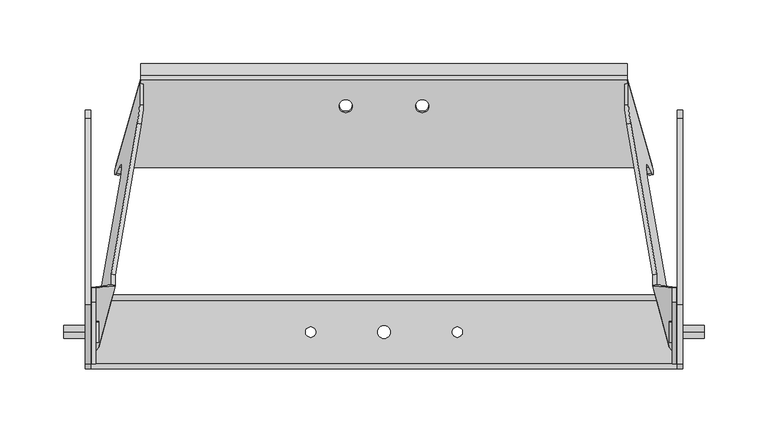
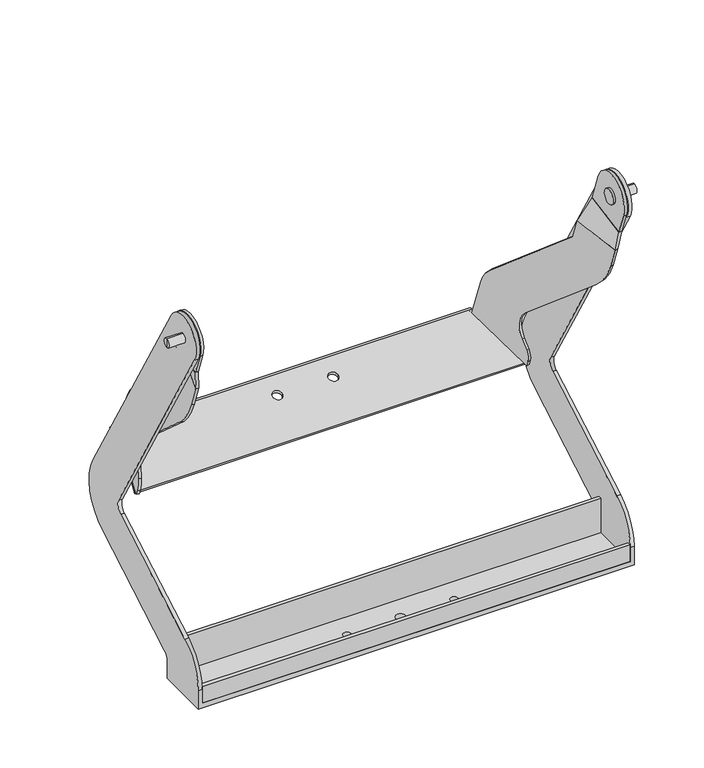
"""IFC4 building model written with IfcOpenShell, lengths in millimetres: proxy geometry, d&b M-Series M6 Flying Bracket : M6 Flying Bracket."""

from ifc_helpers import new_model, si_unit, point, frame, frame_2d, origin, place, context, project, spatial, polyline, circle_curve, trimmed, segment, composite_curve, outline, extrude, source, transform, mapped, element, save
from ifc_brep_helpers import plane_surface, cylinder_surface, revolved_surface, spline_surface, advanced_brep


def communication_devices_d38580d4(model_context):
    return source(origin(), model_context, "Body", "SolidModel", [
        advanced_brep(
        [(-226.0004126, 35.0686769, 346.7402111), (-228.9943528, 35.0445142, 346.8727202), (-228.9935695, -14.8498098, 337.7745767), (-225.9996292, -14.8256471, 337.6420676), (-210.7972831, 36.2897159, 324.8814154), (-223.7382354, -12.1093216, 316.6477691), (-226.6360129, -11.3796906, 316.9133331), (-213.6950606, 37.019347, 325.1469794)],
        [
            (0, 1),
            (1, 2),
            (2, 3),
            (3, 0),
            (4, 5),
            (5, 6),
            (6, 7),
            (7, 4),
            (7, 1),
            (0, 4),
            (5, 3),
            (2, 6),
        ],
        [
            plane_surface(frame((-227.496991, 10.1094335, 342.2573939), z_axis=(0.0449434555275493, -0.17920826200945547, 0.9827840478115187), x_axis=(1.5446243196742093e-05, -0.9837779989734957, -0.1793902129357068))),
            plane_surface(frame((-218.716648, 12.4550127, 320.8973743), z_axis=(-0.0449434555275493, 0.17920826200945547, -0.9827840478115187), x_axis=(1.5446243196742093e-05, -0.9837779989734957, -0.1793902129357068))),
            spline_surface(1, 1, [[(-210.7972831, 36.2897159, 324.8814154), (-226.0004126, 35.0686769, 346.7402111)], [(-213.6950606, 37.019347, 325.1469794), (-228.9943528, 35.0445142, 346.8727202)]], [2, 2], [2, 2], [0.0, 1.0], [0.0, 1.0]),
            spline_surface(1, 1, [[(-226.6360129, -11.3796906, 316.9133331), (-228.9935695, -14.8498098, 337.7745767)], [(-223.7382354, -12.1093216, 316.6477691), (-225.9996292, -14.8256471, 337.6420676)]], [2, 2], [2, 2], [0.0, 1.0], [0.0, 1.0]),
            spline_surface(1, 1, [[(-223.7382354, -12.1093216, 316.6477691), (-225.9996292, -14.8256471, 337.6420676)], [(-210.7972831, 36.2897159, 324.8814154), (-226.0004126, 35.0686769, 346.7402111)]], [2, 2], [2, 2], [0.0, 1.0], [0.0, 1.0]),
            spline_surface(1, 1, [[(-213.6950606, 37.019347, 325.1469794), (-228.9943528, 35.0445142, 346.8727202)], [(-226.6360129, -11.3796906, 316.9133331), (-228.9935695, -14.8498098, 337.7745767)]], [2, 2], [2, 2], [0.0, 1.0], [0.0, 1.0]),
        ],
        [
            (0, [[1, 2, 3, 4]]),
            (1, [[5, 6, 7, 8]]),
            (2, [[-8, 9, -1, 10]]),
            (3, [[-6, 11, -3, 12]]),
            (4, [[-5, -10, -4, -11]]),
            (5, [[-7, -12, -2, -9]]),
        ],
    ),
        advanced_brep(
        [(226.0004126, 35.0686769, 346.7402111), (225.9996292, -14.8256471, 337.6420676), (228.9935695, -14.8498098, 337.7745767), (228.9943528, 35.0445142, 346.8727202), (210.7972831, 36.2897159, 324.8814154), (213.6950606, 37.019347, 325.1469794), (226.6360129, -11.3796906, 316.9133331), (223.7382354, -12.1093216, 316.6477691)],
        [
            (0, 1),
            (1, 2),
            (2, 3),
            (3, 0),
            (4, 5),
            (5, 6),
            (6, 7),
            (7, 4),
            (4, 0),
            (3, 5),
            (6, 2),
            (1, 7),
        ],
        [
            plane_surface(frame((227.496991, 10.1094335, 342.2573939), z_axis=(-0.04494345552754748, -0.17920826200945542, 0.9827840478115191), x_axis=(-0.9989895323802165, 0.008062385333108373, -0.0442143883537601))),
            plane_surface(frame((218.716648, 12.4550127, 320.8973743), z_axis=(0.04494345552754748, 0.17920826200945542, -0.9827840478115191), x_axis=(-0.9989895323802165, 0.008062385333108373, -0.0442143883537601))),
            spline_surface(1, 1, [[(213.6950606, 37.019347, 325.1469794), (228.9943528, 35.0445142, 346.8727202)], [(210.7972831, 36.2897159, 324.8814154), (226.0004126, 35.0686769, 346.7402111)]], [2, 2], [2, 2], [0.0, 1.0], [0.0, 1.0]),
            spline_surface(1, 1, [[(223.7382354, -12.1093216, 316.6477691), (225.9996292, -14.8256471, 337.6420676)], [(226.6360129, -11.3796906, 316.9133331), (228.9935695, -14.8498098, 337.7745767)]], [2, 2], [2, 2], [0.0, 1.0], [0.0, 1.0]),
            spline_surface(1, 1, [[(210.7972831, 36.2897159, 324.8814154), (226.0004126, 35.0686769, 346.7402111)], [(223.7382354, -12.1093216, 316.6477691), (225.9996292, -14.8256471, 337.6420676)]], [2, 2], [2, 2], [0.0, 1.0], [0.0, 1.0]),
            spline_surface(1, 1, [[(226.6360129, -11.3796906, 316.9133331), (228.9935695, -14.8498098, 337.7745767)], [(213.6950606, 37.019347, 325.1469794), (228.9943528, 35.0445142, 346.8727202)]], [2, 2], [2, 2], [0.0, 1.0], [0.0, 1.0]),
        ],
        [
            (0, [[1, 2, 3, 4]]),
            (1, [[5, 6, 7, 8]]),
            (2, [[-5, 9, -4, 10]]),
            (3, [[-7, 11, -2, 12]]),
            (4, [[-8, -12, -1, -9]]),
            (5, [[-6, -10, -3, -11]]),
        ],
    ),
        extrude(outline(composite_curve([segment(polyline([(104.5689879, 0.0), (180.197191, -1e-07), (180.1971911, -6.0833657)]), True, "CONTINUOUS"), segment(trimmed(circle_curve(frame_2d((162.814116, -6.0833657)), 17.383075), [point((180.1971911, -6.0833657))], [point((175.3152275, -18.1620042))], False, "CARTESIAN"), True, "CONTINUOUS"), segment(polyline([(175.3152275, -18.1620042), (167.0292159, -26.7378346)]), True, "CONTINUOUS"), segment(trimmed(circle_curve(frame_2d((188.6038419, -47.58335)), 30.0), [point((167.0292159, -26.7378346))], [point((162.6230798, -62.5833499))], True, "CARTESIAN"), True, "CONTINUOUS"), segment(polyline([(162.6230798, -62.5833499), (229.5617624, -178.5245492)]), True, "CONTINUOUS"), segment(trimmed(circle_curve(frame_2d((160.2797301, -218.5245492)), 80.0), [point((229.5617624, -178.5245492))], [point((240.2797301, -218.5245492))], False, "CARTESIAN"), True, "CONTINUOUS"), segment(polyline([(240.2797301, -218.5245492), (240.2797301, -244.0319149), (190.2797302, -235.2155658), (190.2797301, -210.4860734), (111.2677177, -73.6332534)]), True, "CONTINUOUS"), segment(trimmed(circle_curve(frame_2d((154.5689878, -48.6332534)), 50.0), [point((111.2677177, -73.6332534))], [point((104.5689879, -48.6332534))], False, "CARTESIAN"), True, "CONTINUOUS"), segment(polyline([(104.5689879, -48.6332534), (104.5689879, 0.0)]), True, "CONTINUOUS")], self_intersect=False)), frame((161.5492651, 289.4500216, 166.7130543), z_axis=(0.9659258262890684, 0.2432103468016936, 0.08852132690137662), x_axis=(0.2588190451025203, -0.9076733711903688, -0.3303660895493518)), (0.0, 0.0, 1.0), 3.0),
        extrude(outline(composite_curve([segment(trimmed(circle_curve(frame_2d((0.0, -8.2)), 8.2), [point((0.0, -16.4))], [point((0.0, 0.0))], False, "CARTESIAN"), True, "CONTINUOUS"), segment(trimmed(circle_curve(frame_2d((0.0, -8.2)), 8.2), [point((0.0, 0.0))], [point((0.0, -16.4))], False, "CARTESIAN"), True, "CONTINUOUS")], self_intersect=False)), frame((223.7074562, -7.7068157, 367.1980095), z_axis=(0.9999999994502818, -1.5277969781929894e-05, 2.942821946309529e-05), x_axis=(-3.287885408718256e-05, -0.34202014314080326, 0.9396926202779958)), (0.0, 0.0, 1.0), 2.2918383),
        extrude(outline(composite_curve([segment(trimmed(circle_curve(frame_2d((0.0085442, 369.976526)), 25.0), [point((-23.4837713, 361.4260224))], [point((23.5008597, 378.5270296))], False, "CARTESIAN"), True, "CONTINUOUS"), segment(polyline([(23.5008597, 378.5270296), (35.0670317, 346.7492332), (-14.8241685, 337.6339593), (-23.4837713, 361.4260224)]), True, "CONTINUOUS")], self_intersect=False)), frame((226.0, 0.0, 0.0), z_axis=(1.0, 0.0, 0.0), x_axis=(0.0, 1.0, 0.0)), (0.0, 0.0, 1.0), 3.0),
        extrude(outline(composite_curve([segment(polyline([(-48.6332534, 0.0), (0.0, 0.0)]), True, "CONTINUOUS"), segment(trimmed(circle_curve(frame_2d((1e-07, -49.9999999)), 50.0), [point((0.0, 0.0))], [point((25.0, -6.6987298))], False, "CARTESIAN"), True, "CONTINUOUS"), segment(polyline([(25.0, -6.6987298), (161.85282, -85.7107422), (186.5823124, -85.7107423), (195.3986615, -135.7107422), (169.8912958, -135.7107422)]), True, "CONTINUOUS"), segment(trimmed(circle_curve(frame_2d((169.8912958, -55.7107422)), 80.0), [point((169.8912958, -135.7107422))], [point((129.8912958, -124.9927745))], False, "CARTESIAN"), True, "CONTINUOUS"), segment(polyline([(129.8912958, -124.9927745), (13.9500965, -58.0540919)]), True, "CONTINUOUS"), segment(trimmed(circle_curve(frame_2d((-1.0499034, -84.034854)), 30.0), [point((13.9500965, -58.0540919))], [point((-21.8954188, -62.460228))], True, "CARTESIAN"), True, "CONTINUOUS"), segment(polyline([(-21.8954188, -62.460228), (-30.4712491, -70.7462396)]), True, "CONTINUOUS"), segment(trimmed(circle_curve(frame_2d((-42.5498877, -58.2451281)), 17.383075), [point((-30.4712491, -70.7462396))], [point((-42.5498877, -75.6282031))], False, "CARTESIAN"), True, "CONTINUOUS"), segment(polyline([(-42.5498877, -75.6282031), (-48.6332533, -75.6282031), (-48.6332534, 0.0)]), True, "CONTINUOUS")], self_intersect=False)), frame((-188.6137106, 177.9019835, 177.867316), z_axis=(-0.9659258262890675, 0.2432103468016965, 0.08852132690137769), x_axis=(0.0, -0.3420201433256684, 0.9396926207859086)), (0.0, 0.0, 1.0), 3.0),
        extrude(outline(composite_curve([segment(trimmed(circle_curve(frame_2d((0.0, -8.2)), 8.2), [point((0.0, -16.4))], [point((0.0, 0.0))], False, "CARTESIAN"), True, "CONTINUOUS"), segment(trimmed(circle_curve(frame_2d((0.0, -8.2)), 8.2), [point((0.0, 0.0))], [point((0.0, -16.4))], False, "CARTESIAN"), True, "CONTINUOUS")], self_intersect=False)), frame((-223.724223, -7.7068246, 367.1980068), z_axis=(-0.9999999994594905, -1.1245230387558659e-05, 3.0896016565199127e-05), x_axis=(-3.287885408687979e-05, 0.3420201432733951, -0.9396926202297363)), (0.0, 0.0, 1.0), 2.2727968),
        extrude(outline(composite_curve([segment(trimmed(circle_curve(frame_2d((0.0085442, 369.976526)), 25.0), [point((-23.4837713, 361.4260224))], [point((23.5008597, 378.5270296))], False, "CARTESIAN"), True, "CONTINUOUS"), segment(polyline([(23.5008597, 378.5270296), (35.0670317, 346.7492332), (-14.8241685, 337.6339593), (-23.4837713, 361.4260224)]), True, "CONTINUOUS")], self_intersect=False)), frame((-229.0, 0.0, 0.0), z_axis=(1.0, 0.0, 0.0), x_axis=(0.0, 1.0, 0.0)), (0.0, 0.0, 1.0), 3.0),
        advanced_brep(
        [(190.7794274, 198.8585502, 130.547922), (210.3312721, 130.29061, 105.5912327), (-210.3312721, 130.29061, 105.5912327), (-190.7794274, 198.8585502, 130.547922), (-24.75, 178.1932418, 123.0263648), (-35.25, 178.1932418, 123.0263648), (24.75, 178.1932418, 123.0263648), (35.25, 178.1932418, 123.0263648), (-190.7794274, 197.8324898, 133.3669998), (-210.3312721, 129.2645496, 108.4103106), (210.3312721, 129.2645496, 108.4103106), (190.7794274, 197.8324898, 133.3669998), (-35.25, 177.1671814, 125.8454427), (-24.75, 177.1671814, 125.8454427), (35.25, 177.1671814, 125.8454427), (24.75, 177.1671814, 125.8454427), (190.7794274, 208.5936276, 123.0319258), (190.7794274, 210.5219904, 125.3300591), (190.7794274, 201.7717208, 132.6724071), (190.7794274, 199.843358, 130.3742738), (-190.7794274, 208.5936276, 123.0319258), (-190.7794274, 199.843358, 130.3742738), (-190.7794274, 201.7717208, 132.6724071), (-190.7794274, 210.5219904, 125.3300591)],
        [
            (0, 1),
            (1, 2),
            (2, 3),
            (3, 0),
            (4, 5, circle_curve(frame((-30.0, 178.1932418, 123.0263648), z_axis=(0.0, -0.34202014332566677, 0.9396926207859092), x_axis=(1.0, 0.0, 0.0)), 5.25)),
            (5, 4, circle_curve(frame((-30.0, 178.1932418, 123.0263648), z_axis=(0.0, -0.34202014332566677, 0.9396926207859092), x_axis=(1.0, 0.0, 0.0)), 5.25)),
            (6, 7, circle_curve(frame((30.0, 178.1932418, 123.0263648), z_axis=(0.0, -0.34202014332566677, 0.9396926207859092), x_axis=(-1.0, 0.0, 0.0)), 5.25)),
            (7, 6, circle_curve(frame((30.0, 178.1932418, 123.0263648), z_axis=(0.0, -0.34202014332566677, 0.9396926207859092), x_axis=(-1.0, 0.0, 0.0)), 5.25)),
            (8, 9),
            (9, 10),
            (10, 11),
            (11, 8),
            (12, 13, circle_curve(frame((-30.0, 177.1671814, 125.8454427), z_axis=(0.0, 0.34202014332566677, -0.9396926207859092), x_axis=(1.0, 0.0, 0.0)), 5.25)),
            (13, 12, circle_curve(frame((-30.0, 177.1671814, 125.8454427), z_axis=(0.0, 0.34202014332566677, -0.9396926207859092), x_axis=(1.0, 0.0, 0.0)), 5.25)),
            (14, 15, circle_curve(frame((30.0, 177.1671814, 125.8454427), z_axis=(0.0, 0.34202014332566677, -0.9396926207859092), x_axis=(-1.0, 0.0, 0.0)), 5.25)),
            (15, 14, circle_curve(frame((30.0, 177.1671814, 125.8454427), z_axis=(0.0, 0.34202014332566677, -0.9396926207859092), x_axis=(-1.0, 0.0, 0.0)), 5.25)),
            (1, 10),
            (9, 2),
            (16, 17),
            (17, 18),
            (18, 11, circle_curve(frame((190.7794274, 199.2005702, 129.6082292), z_axis=(1.0, 0.0, 0.0), x_axis=(0.0, -0.9396926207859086, -0.3420201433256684)), 4.0000002)),
            (11, 0),
            (0, 19, circle_curve(frame((190.7794274, 199.2005702, 129.6082292), z_axis=(-1.0, 0.0, 0.0), x_axis=(0.0, -0.9396926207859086, -0.3420201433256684)), 1.0000002)),
            (19, 16),
            (20, 21),
            (21, 3, circle_curve(frame((-190.7794274, 199.2005702, 129.6082292), z_axis=(1.0, 0.0, 0.0), x_axis=(0.0, -0.9396926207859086, -0.3420201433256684)), 1.0000002)),
            (3, 8),
            (8, 22, circle_curve(frame((-190.7794274, 199.2005702, 129.6082292), z_axis=(-1.0, 0.0, 0.0), x_axis=(0.0, -0.9396926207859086, -0.3420201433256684)), 4.0000002)),
            (22, 23),
            (23, 20),
            (16, 20),
            (23, 17),
            (22, 18),
            (21, 19),
            (12, 5),
            (4, 13),
            (14, 7),
            (6, 15),
        ],
        [
            plane_surface(frame((115.0144144, 198.8585502, 130.547922), z_axis=(0.0, 0.34202014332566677, -0.9396926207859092), x_axis=(1.0, 0.0, 0.0))),
            plane_surface(frame((115.0144144, 197.8324898, 133.3669998), z_axis=(0.0, -0.34202014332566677, 0.9396926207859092), x_axis=(-1.0, 0.0, 0.0))),
            plane_surface(frame((210.3312721, 130.29061, 105.5912327), z_axis=(0.0, -0.9396926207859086, -0.3420201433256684), x_axis=(0.0, -0.3420201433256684, 0.9396926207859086))),
            plane_surface(frame((190.7794274, 210.5219904, 125.3300591), z_axis=(1.0000000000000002, 0.0, 0.0), x_axis=(0.0, 0.6427876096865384, 0.766044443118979))),
            plane_surface(frame((-190.7794274, 210.5219904, 125.3300591), z_axis=(-1.0000000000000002, 0.0, 0.0), x_axis=(0.0, -0.6427876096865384, -0.766044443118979))),
            plane_surface(frame((190.7794274, 208.5936276, 123.0319258), z_axis=(0.0, 0.766044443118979, -0.6427876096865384), x_axis=(-1.0, 0.0, 0.0))),
            plane_surface(frame((190.7794274, 210.5219904, 125.3300591), z_axis=(0.0, 0.6427876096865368, 0.7660444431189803), x_axis=(-1.0, 0.0, 0.0))),
            cylinder_surface(frame((-190.7794274, 199.2005702, 129.6082292), z_axis=(1.0, 0.0, 0.0), x_axis=(0.0, -0.9396926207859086, -0.3420201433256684)), 4.0000002),
            revolved_surface(polyline([(-190.7794274, 198.26087739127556, 129.2662089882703), (190.7794274, 198.26087739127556, 129.2662089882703)]), (-190.7794274, 199.2005702, 129.6082292), (-1.0, 0.0, 0.0)),
            plane_surface(frame((190.7794274, 199.843358, 130.3742738), z_axis=(0.0, -0.6427876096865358, -0.766044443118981), x_axis=(-1.0, 0.0, 0.0))),
            plane_surface(frame((190.7794274, 198.8585502, 130.547922), z_axis=(0.9659258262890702, 0.24321034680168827, 0.08852132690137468), x_axis=(0.0, -0.3420201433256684, 0.9396926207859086))),
            plane_surface(frame((-210.3312721, 130.29061, 105.5912327), z_axis=(-0.9659258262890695, 0.24321034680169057, 0.08852132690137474), x_axis=(0.0, -0.3420201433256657, 0.9396926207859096))),
            revolved_surface(polyline([(-24.75, 178.19324183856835, 123.02636481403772), (-24.75, 177.1671814, 125.8454427)]), (-30.0, 177.1671814, 125.8454427), (0.0, 0.34202014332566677, -0.9396926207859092)),
            revolved_surface(polyline([(24.75, 178.19324183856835, 123.02636481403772), (24.75, 177.1671814, 125.8454427)]), (30.0, 177.1671814, 125.8454427), (0.0, 0.34202014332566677, -0.9396926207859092)),
        ],
        [
            (0, [[1, 2, 3, 4], [5, 6], [7, 8]]),
            (1, [[9, 10, 11, 12], [13, 14], [15, 16]]),
            (2, [[-2, 17, -10, 18]]),
            (3, [[19, 20, 21, 22, 23, 24]]),
            (4, [[25, 26, 27, 28, 29, 30]]),
            (5, [[-19, 31, -30, 32]]),
            (6, [[-20, -32, -29, 33]]),
            (7, [[-21, -33, -28, -12]]),
            (8, [[-23, -4, -26, 34]]),
            (9, [[-24, -34, -25, -31]]),
            (10, [[-1, -22, -11, -17]]),
            (11, [[-3, -18, -9, -27]]),
            (12, [[35, -5, 36, -13]]),
            (12, [[-35, -14, -36, -6]]),
            (13, [[37, -7, 38, -15]]),
            (13, [[-37, -16, -38, -8]]),
        ],
    ),
        advanced_brep(
        [(-233.9958719, 0.0, 375.000001), (-233.9958719, 0.0, 365.000001), (-251.0, 0.0, 365.000001), (-251.0, 0.0, 375.000001), (-233.9958719, 0.0, 370.000001), (-251.0, 0.0, 370.000001)],
        [
            (0, 1, circle_curve(frame((-233.9958719, 0.0, 370.000001), z_axis=(-1.0, 0.0, 0.0), x_axis=(0.0, 0.0, -1.0)), 5.0)),
            (1, 2),
            (2, 3, circle_curve(frame((-251.0, 0.0, 370.000001), z_axis=(1.0, 0.0, 0.0), x_axis=(0.0, 0.0, -1.0)), 5.0)),
            (3, 0),
            (1, 0, circle_curve(frame((-233.9958719, 0.0, 370.000001), z_axis=(-1.0, 0.0, 0.0), x_axis=(0.0, 0.0, -1.0)), 5.0)),
            (3, 2, circle_curve(frame((-251.0, 0.0, 370.000001), z_axis=(1.0, 0.0, 0.0), x_axis=(0.0, 0.0, -1.0)), 5.0)),
            (4, 1),
            (0, 4),
            (2, 5),
            (5, 3),
        ],
        [
            cylinder_surface(frame((-294.5, 0.0, 370.000001), z_axis=(1.0, 0.0, 0.0), x_axis=(0.0, 0.0, -1.0)), 5.0),
            plane_surface(frame((-233.9958719, 0.0, 370.000001), z_axis=(1.0, 0.0, 0.0), x_axis=(0.0, 0.0, -1.0))),
            plane_surface(frame((-251.0, 0.0, 370.000001), z_axis=(-1.0, 0.0, 0.0), x_axis=(0.0, 0.0, -1.0))),
        ],
        [
            (0, [[1, 2, 3, 4]]),
            (0, [[5, -4, 6, -2]]),
            (1, [[7, -1, 8]]),
            (1, [[-8, -5, -7]]),
            (2, [[-3, 9, 10]]),
            (2, [[-6, -10, -9]]),
        ],
    ),
        advanced_brep(
        [(251.0, 0.0, 370.000001), (251.0, 0.0, 365.000001), (251.0, 0.0, 375.000001), (233.9958719, 0.0, 375.000001), (233.9958719, 0.0, 365.000001), (233.9958719, 0.0, 370.000001)],
        [
            (0, 1),
            (1, 2, circle_curve(frame((251.0, 0.0, 370.000001), z_axis=(1.0, 0.0, 0.0), x_axis=(0.0, 0.0, -1.0)), 5.0)),
            (2, 0),
            (2, 1, circle_curve(frame((251.0, 0.0, 370.000001), z_axis=(1.0, 0.0, 0.0), x_axis=(0.0, 0.0, -1.0)), 5.0)),
            (3, 4, circle_curve(frame((233.9958719, 0.0, 370.000001), z_axis=(-1.0, 0.0, 0.0), x_axis=(0.0, 0.0, -1.0)), 5.0)),
            (4, 5),
            (5, 3),
            (4, 3, circle_curve(frame((233.9958719, 0.0, 370.000001), z_axis=(-1.0, 0.0, 0.0), x_axis=(0.0, 0.0, -1.0)), 5.0)),
            (1, 4),
            (3, 2),
        ],
        [
            plane_surface(frame((251.0, 0.0, 370.000001), z_axis=(1.0, 0.0, 0.0), x_axis=(0.0, 0.0, -1.0))),
            plane_surface(frame((233.9958719, 0.0, 370.000001), z_axis=(-1.0, 0.0, 0.0), x_axis=(0.0, 0.0, -1.0))),
            cylinder_surface(frame((-294.5, 0.0, 370.000001), z_axis=(1.0, 0.0, 0.0), x_axis=(0.0, 0.0, -1.0)), 5.0),
        ],
        [
            (0, [[1, 2, 3]]),
            (0, [[-3, 4, -1]]),
            (1, [[5, 6, 7]]),
            (1, [[8, -7, -6]]),
            (2, [[-2, 9, -5, 10]]),
            (2, [[-4, -10, -8, -9]]),
        ],
    ),
        advanced_brep(
        [(229.9958719, 21.4506615, 382.3842229), (229.9958719, 167.5626118, 129.3107825), (229.9958719, 149.2613376, 61.009524), (229.9958719, 33.9999999, -5.5366417), (229.9958719, 29.0, -14.1968957), (229.9958719, 29.0, -29.0421952), (229.9958719, -29.0, -29.0421952), (229.9958719, -29.0, -13.0421952), (229.9958719, -3.9999979, 30.2590762), (229.9958719, 115.5929978, 99.3061168), (229.9958719, 119.2534479, 112.9660543), (229.9958719, -21.8498518, 357.3857721), (233.9958719, 21.4506615, 382.3842229), (233.9958719, 167.5626118, 129.3107825), (233.9958719, 149.2613376, 61.009524), (233.9958719, 115.5929978, 99.3061168), (233.9958719, 119.2534479, 112.9660543), (233.9958719, -21.8498518, 357.3857721), (233.9958719, 33.9999999, -5.5366417), (233.9958719, 29.0, -14.1968957), (233.9958719, -29.0, -13.0421952), (233.9958719, -3.9999979, 30.2590762), (-229.9958719, 21.4504736, 382.3844377), (-229.9958719, -21.8497087, 357.3862095), (-229.9958719, 119.2534368, 112.9660278), (-229.9958719, 115.5929847, 99.3061169), (-229.9958719, -4.0, 30.259075), (-229.9958719, -29.0, -13.0421952), (-229.9958719, -29.0, -29.0421952), (-229.9958719, 29.0, -29.0421952), (-229.9958719, 29.0, -14.1968957), (-229.9958719, 34.0, -5.5366417), (-229.9958719, 149.2613397, 61.0095238), (-229.9958719, 167.5626099, 129.310794), (-233.9958719, 21.4504736, 382.3844377), (-233.9958719, 167.5626099, 129.310794), (-233.9958719, 149.2613397, 61.0095238), (-233.9958719, 34.0, -5.5366417), (-233.9958719, 29.0, -14.1968957), (-233.9958719, 29.0, -34.0421952), (-233.9958719, -29.0, -34.0421952), (-233.9958719, -29.0, -13.0421952), (-233.9958719, -4.0, 30.259075), (-233.9958719, 115.5929847, 99.3061169), (-233.9958719, 119.2534368, 112.9660278), (-233.9958719, -21.8497087, 357.3862095), (233.9958719, -29.0, -34.0421952), (233.9958719, 29.0, -34.0421952), (-61.5277425, 0.0, -29.0421952), (-53.4722575, 0.0, -29.0421952), (-5.0, 0.0, -29.0421952), (5.0, 0.0, -29.0421952), (53.5, 0.0, -29.0421952), (61.5, 0.0, -29.0421952), (-61.5277425, 0.0, -34.0421952), (-53.4722575, 0.0, -34.0421952), (-5.0, 0.0, -34.0421952), (5.0, 0.0, -34.0421952), (53.5, 0.0, -34.0421952), (61.5, 0.0, -34.0421952)],
        [
            (0, 1),
            (1, 2, circle_curve(frame((229.9958719, 124.2613382, 104.3107923), z_axis=(-1.0, 0.0, 0.0), x_axis=(0.0, 1.0, 0.0)), 49.999998)),
            (2, 3),
            (3, 4, circle_curve(frame((229.9958719, 39.0, -14.1968957), z_axis=(1.0, 0.0, 0.0), x_axis=(0.0, 1.0, 0.0)), 10.0)),
            (4, 5),
            (5, 6),
            (6, 7),
            (7, 8, circle_curve(frame((229.9958719, 21.0, -13.0421952), z_axis=(-1.0, 0.0, 0.0), x_axis=(0.0, 1.0, 0.0)), 50.0)),
            (8, 9),
            (9, 10, circle_curve(frame((229.9958719, 110.5929927, 107.9663807), z_axis=(1.0, 0.0, 0.0), x_axis=(0.0, 1.0, 0.0)), 10.0000111)),
            (10, 11),
            (11, 0, circle_curve(frame((229.9958719, -0.1993569, 369.8845848), z_axis=(-1.0, 0.0, 0.0), x_axis=(0.0, 1.0, 0.0)), 24.999285)),
            (0, 12),
            (12, 13),
            (13, 1),
            (13, 14, circle_curve(frame((233.9958719, 124.2613382, 104.3107923), z_axis=(-1.0, 0.0, 0.0), x_axis=(0.0, 1.0, 0.0)), 49.999998)),
            (14, 2),
            (9, 15),
            (15, 16, circle_curve(frame((233.9958719, 110.5929927, 107.9663807), z_axis=(1.0, 0.0, 0.0), x_axis=(0.0, 1.0, 0.0)), 10.0000111)),
            (16, 10),
            (16, 17),
            (17, 11),
            (14, 18),
            (18, 3),
            (18, 19, circle_curve(frame((233.9958719, 39.0, -14.1968957), z_axis=(1.0, 0.0, 0.0), x_axis=(0.0, 1.0, 0.0)), 10.0)),
            (19, 4),
            (7, 20),
            (20, 21, circle_curve(frame((233.9958719, 21.0, -13.0421952), z_axis=(-1.0, 0.0, 0.0), x_axis=(0.0, 1.0, 0.0)), 50.0)),
            (21, 8),
            (21, 15),
            (17, 12, circle_curve(frame((233.9958719, -0.1993569, 369.8845848), z_axis=(-1.0, 0.0, 0.0), x_axis=(0.0, 1.0, 0.0)), 24.999285)),
            (22, 23, circle_curve(frame((-229.9958719, -0.1993699, 369.8848947), z_axis=(1.0, 0.0, 0.0), x_axis=(0.0, 1.0, 0.0)), 24.9990859)),
            (23, 24),
            (24, 25, circle_curve(frame((-229.9958719, 110.5929847, 107.966371), z_axis=(-1.0, 0.0, 0.0), x_axis=(0.0, 1.0, 0.0)), 10.0)),
            (25, 26),
            (26, 27, circle_curve(frame((-229.9958719, 21.0, -13.0421952), z_axis=(1.0, 0.0, 0.0), x_axis=(0.0, 1.0, 0.0)), 50.0)),
            (27, 28),
            (28, 29),
            (29, 30),
            (30, 31, circle_curve(frame((-229.9958719, 39.0, -14.1968957), z_axis=(-1.0, 0.0, 0.0), x_axis=(0.0, 1.0, 0.0)), 10.0)),
            (31, 32),
            (32, 33, circle_curve(frame((-229.9958719, 124.2613397, 104.310794), z_axis=(1.0, 0.0, 0.0), x_axis=(0.0, 1.0, 0.0)), 50.0)),
            (33, 22),
            (34, 35),
            (35, 36, circle_curve(frame((-233.9958719, 124.2613397, 104.310794), z_axis=(-1.0, 0.0, 0.0), x_axis=(0.0, 1.0, 0.0)), 50.0)),
            (36, 37),
            (37, 38, circle_curve(frame((-233.9958719, 39.0, -14.1968957), z_axis=(1.0, 0.0, 0.0), x_axis=(0.0, 1.0, 0.0)), 10.0)),
            (38, 39),
            (39, 40),
            (40, 41),
            (41, 42, circle_curve(frame((-233.9958719, 21.0, -13.0421952), z_axis=(-1.0, 0.0, 0.0), x_axis=(0.0, 1.0, 0.0)), 50.0)),
            (42, 43),
            (43, 44, circle_curve(frame((-233.9958719, 110.5929847, 107.966371), z_axis=(1.0, 0.0, 0.0), x_axis=(0.0, 1.0, 0.0)), 10.0)),
            (44, 45),
            (45, 34, circle_curve(frame((-233.9958719, -0.1993699, 369.8848947), z_axis=(-1.0, 0.0, 0.0), x_axis=(0.0, 1.0, 0.0)), 24.9990859)),
            (33, 35),
            (34, 22),
            (23, 45),
            (44, 24),
            (32, 36),
            (43, 25),
            (42, 26),
            (41, 27),
            (40, 46),
            (46, 20),
            (6, 28),
            (29, 5),
            (19, 47),
            (47, 39),
            (38, 30),
            (37, 31),
            (48, 49, circle_curve(frame((-57.5, 0.0, -29.0421952), z_axis=(0.0, 0.0, -1.0), x_axis=(1.0, 0.0, 0.0)), 4.0277425)),
            (49, 48, circle_curve(frame((-57.5, 0.0, -29.0421952), z_axis=(0.0, 0.0, -1.0), x_axis=(1.0, 0.0, 0.0)), 4.0277425)),
            (50, 51, circle_curve(frame((0.0, 0.0, -29.0421952), z_axis=(0.0, 0.0, -1.0), x_axis=(1.0, 0.0, 0.0)), 5.0)),
            (51, 50, circle_curve(frame((0.0, 0.0, -29.0421952), z_axis=(0.0, 0.0, -1.0), x_axis=(1.0, 0.0, 0.0)), 5.0)),
            (52, 53, circle_curve(frame((57.5, 0.0, -29.0421952), z_axis=(0.0, 0.0, -1.0), x_axis=(1.0, 0.0, 0.0)), 4.0)),
            (53, 52, circle_curve(frame((57.5, 0.0, -29.0421952), z_axis=(0.0, 0.0, -1.0), x_axis=(1.0, 0.0, 0.0)), 4.0)),
            (47, 46),
            (54, 55, circle_curve(frame((-57.5, 0.0, -34.0421952), z_axis=(0.0, 0.0, 1.0), x_axis=(1.0, 0.0, 0.0)), 4.0277425)),
            (55, 54, circle_curve(frame((-57.5, 0.0, -34.0421952), z_axis=(0.0, 0.0, 1.0), x_axis=(1.0, 0.0, 0.0)), 4.0277425)),
            (56, 57, circle_curve(frame((0.0, 0.0, -34.0421952), z_axis=(0.0, 0.0, 1.0), x_axis=(1.0, 0.0, 0.0)), 5.0)),
            (57, 56, circle_curve(frame((0.0, 0.0, -34.0421952), z_axis=(0.0, 0.0, 1.0), x_axis=(1.0, 0.0, 0.0)), 5.0)),
            (58, 59, circle_curve(frame((57.5, 0.0, -34.0421952), z_axis=(0.0, 0.0, 1.0), x_axis=(1.0, 0.0, 0.0)), 4.0)),
            (59, 58, circle_curve(frame((57.5, 0.0, -34.0421952), z_axis=(0.0, 0.0, 1.0), x_axis=(1.0, 0.0, 0.0)), 4.0)),
            (48, 54),
            (55, 49),
            (50, 56),
            (57, 51),
            (52, 58),
            (59, 53),
        ],
        [
            plane_surface(frame((229.9958719, 24.7999281, 369.8845848), z_axis=(-1.0, 0.0, 0.0), x_axis=(0.0, 0.0, -1.0))),
            plane_surface(frame((233.9958719, 167.5626118, 129.3107825), z_axis=(0.0, 0.8660255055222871, 0.49999982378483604), x_axis=(-1.0, 0.0, 0.0))),
            cylinder_surface(frame((229.9958719, 124.2613382, 104.3107923), z_axis=(1.0, 0.0, 0.0), x_axis=(0.0, 1.0, 0.0)), 49.999998),
            revolved_surface(polyline([(229.9958719, 120.59300379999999, 107.9663807), (233.9958719, 120.59300379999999, 107.9663807)]), (229.9958719, 110.5929927, 107.9663807), (-1.0, 0.0, 0.0)),
            plane_surface(frame((233.9958719, -21.8498518, 357.3857721), z_axis=(0.0, -0.8660445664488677, -0.4999668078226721), x_axis=(-1.0, 0.0, 0.0))),
            plane_surface(frame((233.9958719, 33.9999999, -5.5366417), z_axis=(0.0, 0.5000000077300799, -0.8660253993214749), x_axis=(-1.0, 0.0, 0.0))),
            revolved_surface(polyline([(229.9958719, 49.0, -14.1968957), (233.9958719, 49.0, -14.1968957)]), (229.9958719, 39.0, -14.1968957), (-1.0, 0.0, 0.0)),
            cylinder_surface(frame((229.9958719, 21.0, -13.0421952), z_axis=(1.0, 0.0, 0.0), x_axis=(0.0, 1.0, 0.0)), 50.0),
            plane_surface(frame((233.9958719, 115.5929978, 99.3061168), z_axis=(0.0, -0.49999995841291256, 0.8660254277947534), x_axis=(-1.0, 0.0, 0.0))),
            cylinder_surface(frame((229.9958719, -0.1993569, 369.8845848), z_axis=(1.0, 0.0, 0.0), x_axis=(0.0, 1.0, 0.0)), 24.999285),
            plane_surface(frame((-229.9958719, 158.9504736, 144.2274516), z_axis=(1.0, 0.0, 0.0), x_axis=(0.0, -0.5000000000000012, 0.8660254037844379))),
            plane_surface(frame((-233.9958719, 158.9504736, 144.2274516), z_axis=(-1.0, 0.0, 0.0), x_axis=(0.0, 0.5000000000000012, -0.8660254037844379))),
            plane_surface(frame((-233.9958719, 21.4504736, 382.3844377), z_axis=(0.0, 0.8660254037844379, 0.5000000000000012), x_axis=(1.0, 0.0, 0.0))),
            plane_surface(frame((-233.9958719, 119.2534368, 112.9660278), z_axis=(0.0, -0.8660452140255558, -0.4999656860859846), x_axis=(1.0, 0.0, 0.0))),
            cylinder_surface(frame((-229.9958719, 124.2613397, 104.310794), z_axis=(-1.0, 0.0, 0.0), x_axis=(0.0, 1.0, 0.0)), 50.0),
            revolved_surface(polyline([(-229.9958719, 120.5929847, 107.966371), (-233.9958719, 120.5929847, 107.966371)]), (-229.9958719, 110.5929847, 107.966371), (1.0, 0.0, 0.0)),
            plane_surface(frame((-233.9958719, -4.0, 30.259075), z_axis=(0.0, -0.49999999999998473, 0.8660254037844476), x_axis=(1.0, 0.0, 0.0))),
            cylinder_surface(frame((-229.9958719, 21.0, -13.0421952), z_axis=(-1.0, 0.0, 0.0), x_axis=(0.0, 1.0, 0.0)), 50.0),
            plane_surface(frame((-233.9958719, -29.0, -29.0421952), z_axis=(0.0, -1.0, 0.0), x_axis=(1.0, 0.0, 0.0))),
            plane_surface(frame((-233.9958719, 29.0, -14.1968957), z_axis=(0.0, 1.0, 0.0), x_axis=(1.0, 0.0, 0.0))),
            revolved_surface(polyline([(-229.9958719, 49.0, -14.1968957), (-233.9958719, 49.0, -14.1968957)]), (-229.9958719, 39.0, -14.1968957), (1.0, 0.0, 0.0)),
            plane_surface(frame((-233.9958719, 149.2613397, 61.0095238), z_axis=(0.0, 0.5000000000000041, -0.8660254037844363), x_axis=(1.0, 0.0, 0.0))),
            cylinder_surface(frame((-229.9958719, -0.1993699, 369.8848947), z_axis=(-1.0, 0.0, 0.0), x_axis=(0.0, 1.0, 0.0)), 24.9990859),
            plane_surface(frame((-87.0082463, 29.0, -29.0421952), z_axis=(0.0, 0.0, 1.0), x_axis=(-1.0, 0.0, 0.0))),
            plane_surface(frame((-87.0082463, 29.0, -34.0421952), z_axis=(0.0, 0.0, -1.0), x_axis=(1.0, 0.0, 0.0))),
            plane_surface(frame((233.9958719, -29.0, -29.0421952), z_axis=(1.0, 0.0, 0.0), x_axis=(0.0, 0.0, -1.0))),
            revolved_surface(polyline([(-53.4722575, 0.0, -34.0421952), (-53.4722575, 0.0, -29.0421952)]), (-57.5, 0.0, -29.0421952), (0.0, 0.0, -1.0)),
            revolved_surface(polyline([(5.0, 0.0, -34.0421952), (5.0, 0.0, -29.0421952)]), (0.0, 0.0, -29.0421952), (0.0, 0.0, -1.0)),
            revolved_surface(polyline([(61.5, 0.0, -34.0421952), (61.5, 0.0, -29.0421952)]), (57.5, 0.0, -29.0421952), (0.0, 0.0, -1.0)),
        ],
        [
            (0, [[1, 2, 3, 4, 5, 6, 7, 8, 9, 10, 11, 12]]),
            (1, [[-1, 13, 14, 15]]),
            (2, [[-2, -15, 16, 17]]),
            (3, [[-10, 18, 19, 20]]),
            (4, [[-11, -20, 21, 22]]),
            (5, [[-3, -17, 23, 24]]),
            (6, [[-4, -24, 25, 26]]),
            (7, [[-8, 27, 28, 29]]),
            (8, [[-9, -29, 30, -18]]),
            (9, [[-12, -22, 31, -13]]),
            (10, [[32, 33, 34, 35, 36, 37, 38, 39, 40, 41, 42, 43]]),
            (11, [[44, 45, 46, 47, 48, 49, 50, 51, 52, 53, 54, 55]]),
            (12, [[-43, 56, -44, 57]]),
            (13, [[-33, 58, -54, 59]]),
            (14, [[-42, 60, -45, -56]]),
            (15, [[-34, -59, -53, 61]]),
            (16, [[-35, -61, -52, 62]]),
            (17, [[-36, -62, -51, 63]]),
            (18, [[-37, -63, -50, 64, 65, -27, -7, 66]]),
            (19, [[-39, 67, -5, -26, 68, 69, -48, 70]]),
            (20, [[-40, -70, -47, 71]]),
            (21, [[-41, -71, -46, -60]]),
            (22, [[-32, -57, -55, -58]]),
            (23, [[-38, -66, -6, -67], [72, 73], [74, 75], [76, 77]]),
            (24, [[78, -64, -49, -69], [79, 80], [81, 82], [83, 84]]),
            (25, [[-65, -78, -68, -25, -23, -16, -14, -31, -21, -19, -30, -28]]),
            (26, [[-72, 85, -80, 86]]),
            (26, [[-73, -86, -79, -85]]),
            (27, [[-74, 87, -82, 88]]),
            (27, [[-75, -88, -81, -87]]),
            (28, [[-76, 89, -84, 90]]),
            (28, [[-77, -90, -83, -89]]),
        ],
    ),
        extrude(outline(polyline([(229.9958719, 29.0), (229.9958719, 24.9947219), (-229.9958719, 24.9947219), (-229.9958719, 29.0), (229.9958719, 29.0)])), frame((0.0, 0.0, -29.0421952), z_axis=(0.0, 0.0, 1.0), x_axis=(1.0, 0.0, 0.0)), (0.0, 0.0, 1.0), 39.0),
        extrude(outline(polyline([(229.9958719, -24.9947219), (229.9958719, -29.0), (-229.9958719, -29.0), (-229.9958719, -24.9947219), (229.9958719, -24.9947219)])), frame((0.0, 0.0, -29.0421952), z_axis=(0.0, 0.0, 1.0), x_axis=(1.0, 0.0, 0.0)), (0.0, 0.0, 1.0), 19.0),
    ])


if __name__ == "__main__":
    model = new_model("IFC4")
    model_context = context("Model", 3, world=origin())
    ifc_project = project(units=[si_unit("LENGTHUNIT", "METRE", prefix="MILLI")], contexts=[model_context])
    site = spatial("IfcSite", under=ifc_project)
    building = spatial("IfcBuilding", under=site)
    placement = place(None, origin())
    communication_devices_shape = communication_devices_d38580d4(model_context)
    element("IfcBuildingElementProxy", 1, Name="d&b M-Series M6 Flying Bracket : M6 Flying Bracket", ObjectType="d&b M-Series M6 Flying Bracket : M6 Flying Bracket", at=placement, inside=building, context=model_context, shape_type="MappedRepresentation", body=[
        mapped(communication_devices_shape, transform((0.0, 0.0, 0.0), x_axis=(1.0, 0.0, 0.0), y_axis=(0.0, 1.0, 0.0), z_axis=(0.0, 0.0, 1.0))),
    ])
    save(model, "model.ifc")
